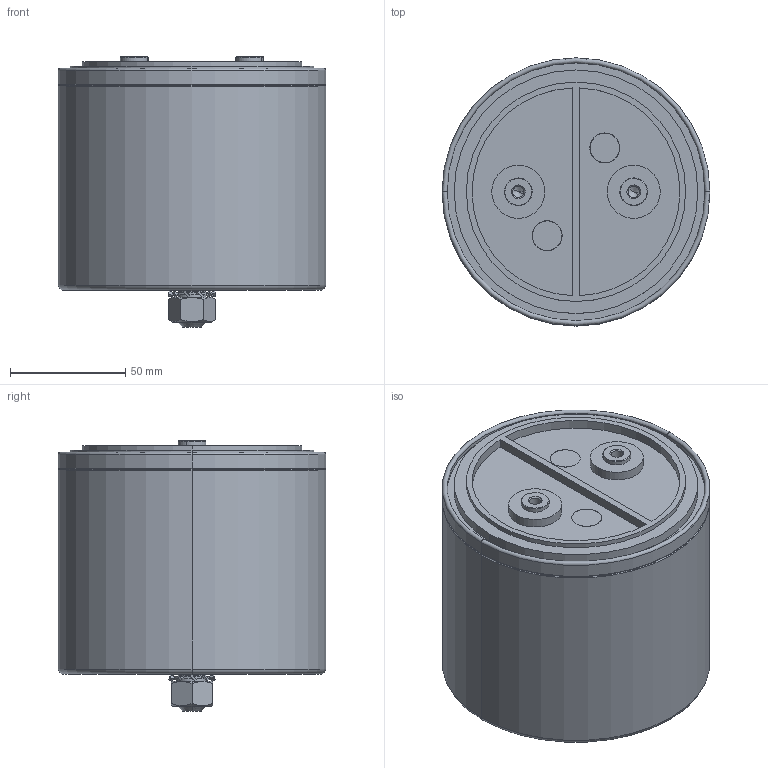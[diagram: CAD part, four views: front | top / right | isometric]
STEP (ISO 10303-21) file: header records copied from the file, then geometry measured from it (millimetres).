
FILE_DESCRIPTION (( 'STEP AP203' ), '1' );
FILE_NAME ('B25620Bx_116x95_101.STEP', '2021-07-01T03:43:47', ( '' ), ( '' ), 'SwSTEP 2.0', 'SolidWorks 2017', '' );
FILE_SCHEMA (( 'CONFIG_CONTROL_DESIGN' ));
Length unit declared in the file: millimetre
Products named in the file (1): B25620Bx_116x95_101
Bounding box: 116 x 116 x 117 mm (x, y, z)
Volume: 107635.2 mm3; surface area: 121798.8 mm2
Topology: 2 solids, 15 shells, 283 faces, 620 edges, 392 vertices
Faces by surface type: plane 113, cylinder 80, bspline 50, cone 22, torus 18
Entity records: 8809 total; most frequent: CARTESIAN_POINT 2696, ORIENTED_EDGE 1232, DIRECTION 1210, EDGE_CURVE 616, AXIS2_PLACEMENT_3D 456, VERTEX_POINT 392, EDGE_LOOP 314, VECTOR 298
